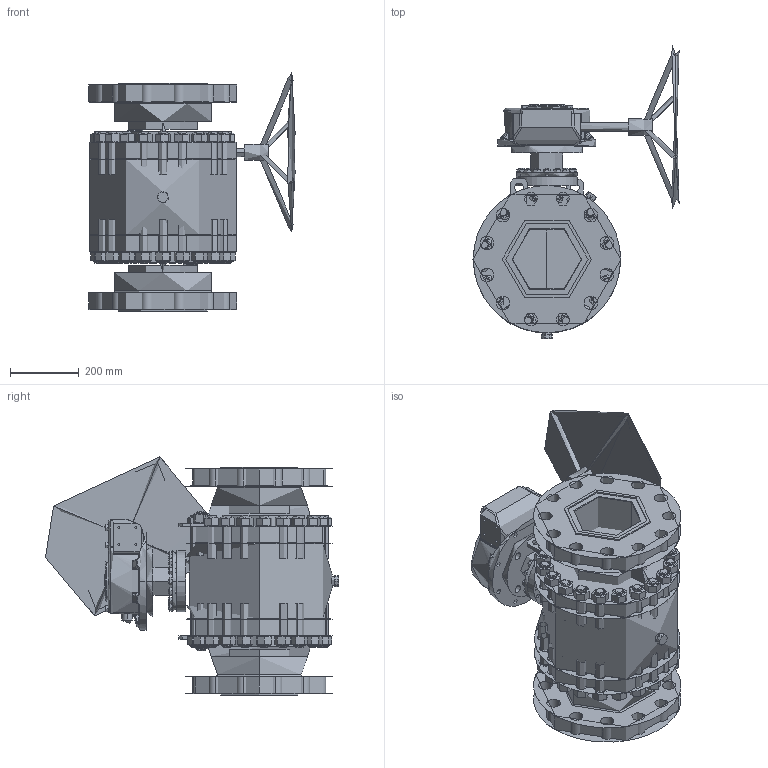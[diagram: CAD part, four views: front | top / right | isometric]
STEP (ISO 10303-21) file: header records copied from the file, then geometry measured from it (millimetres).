
FILE_DESCRIPTION(('STEP AP203'), '1');
FILE_NAME('ZARDP 200.080.27.P.stp', '2013-12-06T12:51:45', ('UNSPECIFIED UNSPECIFIED'), ('UNSPECIFIED'), 'ASCON STEP Converter 1.3', 'Kompas 3D', '');
FILE_SCHEMA(('CONFIG_CONTROL_DESIGN','SUPPORT_RESOURCE_SCHEMA'));
Length unit declared in the file: millimetre
Products named in the file (1): 18
Bounding box: 599 x 851.73 x 692.06 mm (x, y, z)
Surface area: 2991080.8 mm2 (no closed solid volume)
Topology: 0 solids, 136 shells, 1501 faces, 4750 edges, 3299 vertices
Faces by surface type: plane 606, cone 380, cylinder 365, bspline 146, torus 4
Entity records: 112966 total; most frequent: CARTESIAN_POINT 72308, ORIENTED_EDGE 7684, DIRECTION 7566, EDGE_CURVE 4679, VERTEX_POINT 3270, AXIS2_PLACEMENT_3D 2927, EDGE_LOOP 1917, LINE 1712
